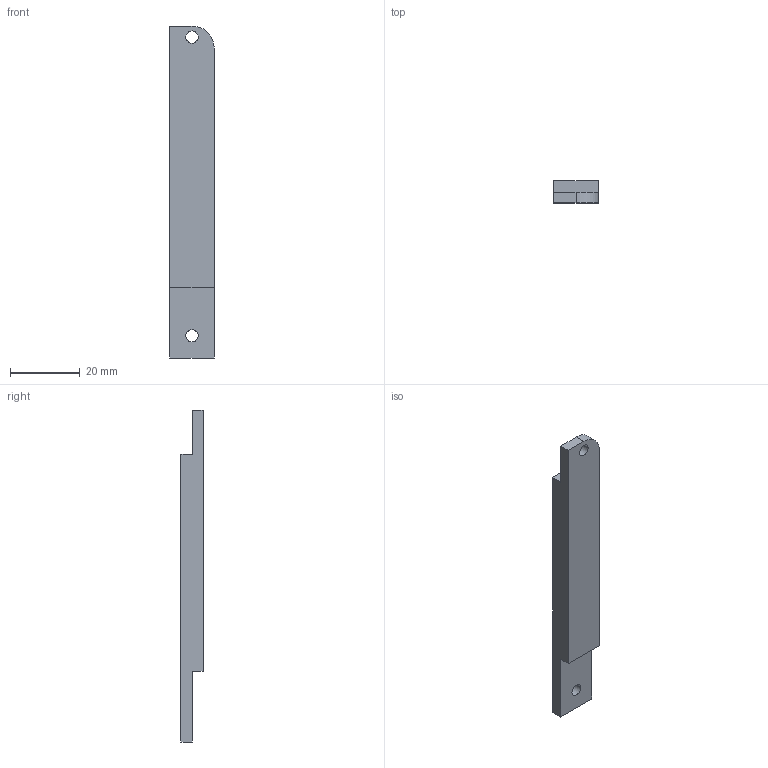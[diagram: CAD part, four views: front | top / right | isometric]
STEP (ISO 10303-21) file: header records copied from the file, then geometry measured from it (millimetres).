
FILE_DESCRIPTION((''),'2;1');
FILE_NAME('CLAMP_LATCH','2016-03-15T',('Luke Baldwin'),(''),'CREO PARAMETRIC BY PTC INC, 2015380','CREO PARAMETRIC BY PTC INC, 2015380','');
FILE_SCHEMA(('CONFIG_CONTROL_DESIGN'));
Length unit declared in the file: inch
Products named in the file (1): CLAMP_LATCH
Bounding box: 12.7 x 6.35 x 95.25 mm (x, y, z)
Volume: 6274.6 mm3; surface area: 3588.3 mm2
Topology: 1 solids, 1 shells, 15 faces, 39 edges, 26 vertices
Faces by surface type: plane 10, cylinder 5
Entity records: 511 total; most frequent: CARTESIAN_POINT 80, DIRECTION 79, ORIENTED_EDGE 78, EDGE_CURVE 39, VECTOR 29, LINE 29, VERTEX_POINT 26, AXIS2_PLACEMENT_3D 25
